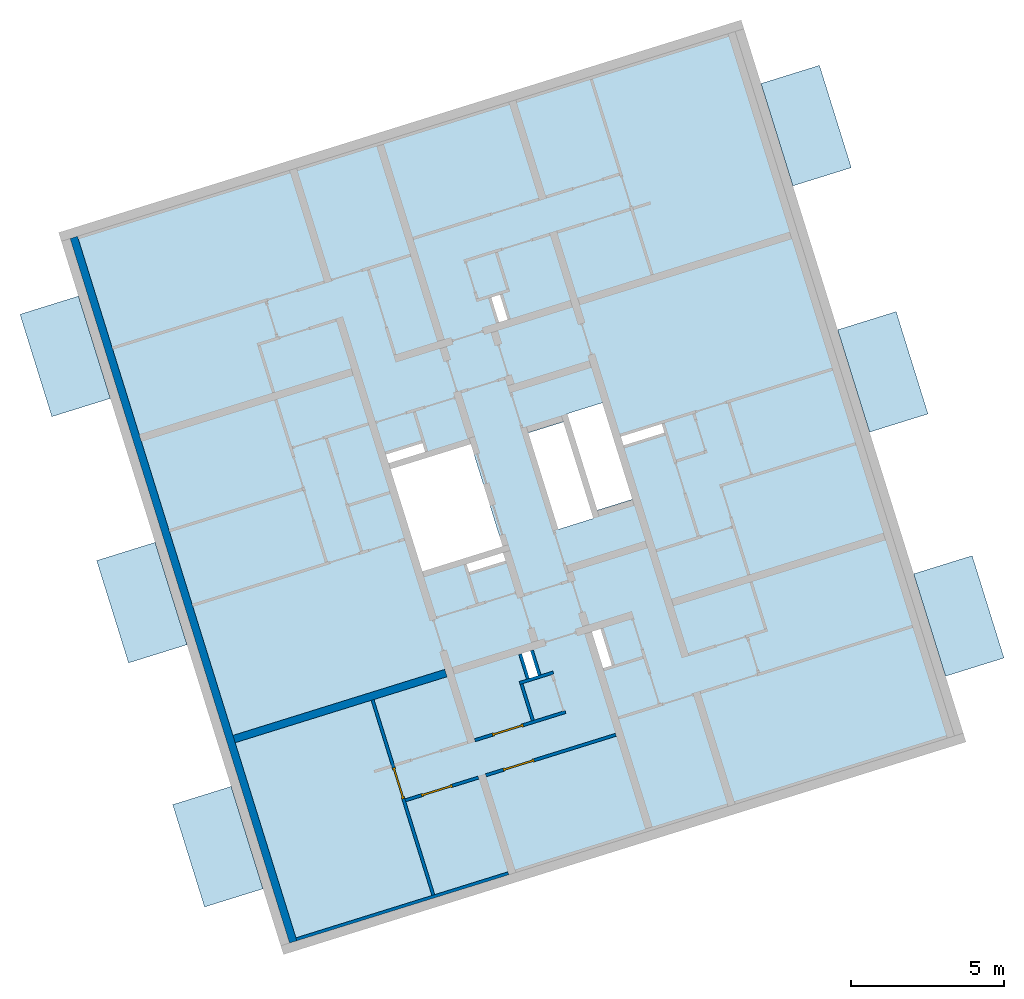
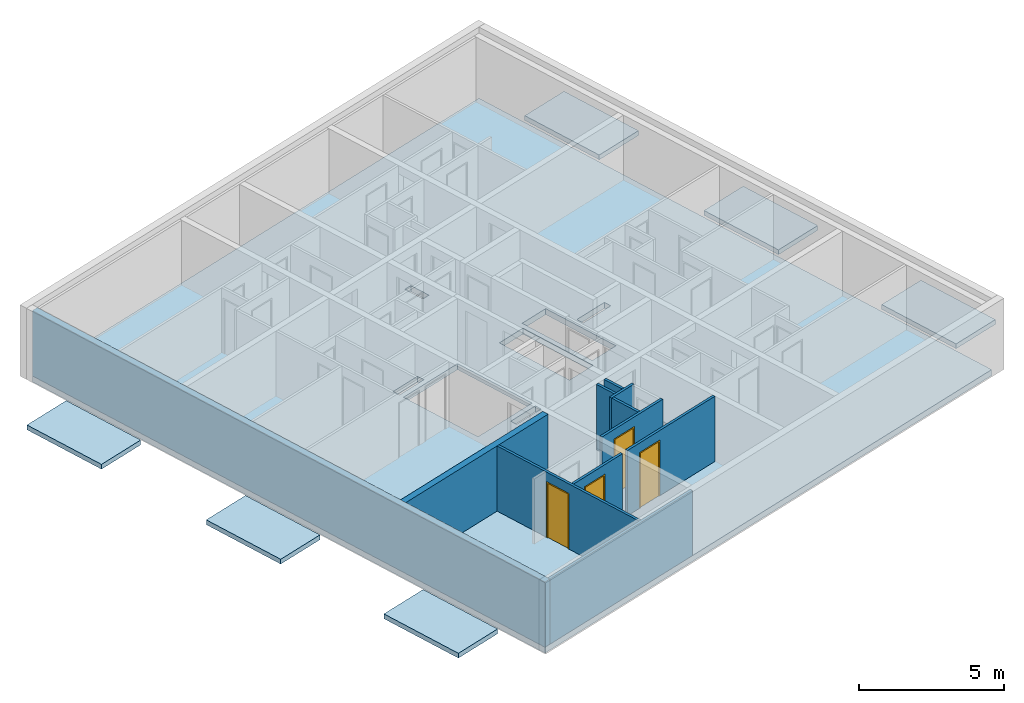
# One storey, part 1 of 9: 11 walls, 7 slabs, 4 doors, 13 openings.
"""IFC4 building model written with IfcOpenShell, lengths in metres."""

from ifc_helpers import new_model, entity, si_unit, converted_unit, direction, frame, origin, place, context, subcontext, project, spatial, indexed_curve, outline, extrude, polygons, source, transform, mapped, material, constituent, constituent_set, type_object, type_shapes, element, fill, save


model = new_model("IFC4")

# Units and contexts
model_context = context("Model", 3, precision=1e-05, world=origin(), true_north=direction((6.12323399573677e-17, 1.0)))
body_context = subcontext(model_context, "Body", "Model", "MODEL_VIEW")
ifc_project = project(units=[si_unit("LENGTHUNIT", "METRE"), si_unit("AREAUNIT", "SQUARE_METRE"), si_unit("VOLUMEUNIT", "CUBIC_METRE"), converted_unit("PLANEANGLEUNIT", "DEGREE", entity("IfcPlaneAngleMeasure", 0.0174532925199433), si_unit("PLANEANGLEUNIT", "RADIAN"), dimensions=[0, 0, 0, 0, 0, 0, 0])], contexts=[model_context])

# Site, building, storey
site_placement = place(None, frame((13.1347999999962, 11.9886000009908, 0.0), z_axis=(0.0, 0.0, 1.0), x_axis=(0.954770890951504, 0.297342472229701, 0.0)))
site = spatial("IfcSite", under=ifc_project, at=site_placement, Name="Schiehaven", CompositionType="ELEMENT")
building_placement = place(site_placement, origin())
building = spatial("IfcBuilding", under=site, at=building_placement, Name="VORM huis", CompositionType="ELEMENT")
storey_placement = place(building_placement, frame((0.0, 0.0, 24.9)))
storey = spatial("IfcBuildingStorey", under=building, at=storey_placement, Name="08 achtste verdieping", CompositionType="ELEMENT", Elevation=24.9)

# Slab, openings
ifc_material_1 = material(Name="beton_gewapend_ihw", Category="Miscellaneous")
slab_type_1 = type_object("IfcSlabType", Name="Floor:28_FL_skelet_vloer 250mm", PredefinedType="FLOOR", material=ifc_material_1)
slab_1_placement = place(storey_placement, origin())
slab_1 = element("IfcSlab", 1, at=slab_1_placement, inside=storey, type_object=slab_type_1, material=ifc_material_1, Name="Constructieve vloer", ObjectType="Vloer", PredefinedType="FLOOR", context=body_context, shape_type="SweptSolid", body=[
    extrude(outline(indexed_curve([(-12.05, -11.375), (12.05, -11.375), (12.05, 11.375), (-12.05, 11.375), (-12.05, -11.375)], self_intersect=False), holes=[indexed_curve([(-1.75, -3.62500000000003), (-1.75000000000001, -0.875000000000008), (1.74999999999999, -0.875000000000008), (1.74999999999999, -3.62500000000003), (-1.75, -3.62500000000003)], self_intersect=False), indexed_curve([(1.76, 2.22499999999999), (1.76, 1.02499999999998), (-1.54, 1.02499999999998), (-1.54, 2.22499999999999), (1.76, 2.22499999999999)], self_intersect=False), indexed_curve([(-1.75999999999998, 3.62499999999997), (1.54, 3.62499999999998), (1.54, 2.42499999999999), (-1.75999999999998, 2.42499999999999), (-1.75999999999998, 3.62499999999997)], self_intersect=False), indexed_curve([(5.27499999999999, -1.02499999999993), (6.125, -1.02499999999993), (6.12500000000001, -1.32499999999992), (5.275, -1.32499999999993), (5.27499999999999, -1.02499999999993)], self_intersect=False), indexed_curve([(5.27500000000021, 1.37500000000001), (6.52500000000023, 1.37500000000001), (6.52500000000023, 1.07500000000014), (5.27500000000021, 1.07500000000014), (5.27500000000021, 1.37500000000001)], self_intersect=False), indexed_curve([(-0.524999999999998, 5.27500000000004), (-0.224999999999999, 5.27500000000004), (-0.224999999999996, 3.87283572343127), (-0.524999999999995, 3.87283572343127), (-0.524999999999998, 5.27500000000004)], self_intersect=False), indexed_curve([(-6.12500000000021, 1.48400000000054), (-5.2750000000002, 1.48400000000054), (-5.2750000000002, 1.18400000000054), (-6.12500000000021, 1.18400000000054), (-6.12500000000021, 1.48400000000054)], self_intersect=False), indexed_curve([(1.94999999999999, -0.924999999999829), (2.22500000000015, -0.924999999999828), (2.22500000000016, -2.17499999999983), (1.94999999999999, -2.17499999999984), (1.94999999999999, -0.924999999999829)], self_intersect=False), indexed_curve([(-2.25000000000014, -2.37499999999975), (-1.95000000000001, -2.37499999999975), (-1.95, -3.62499999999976), (-2.25000000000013, -3.62499999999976), (-2.25000000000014, -2.37499999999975)], self_intersect=False)]), frame((16.2500000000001, 17.05, -0.249999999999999), z_axis=(0.0, 0.0, 1.0), x_axis=(0.0, -1.0, 0.0)), (0.0, 0.0, 1.0), 0.249999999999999),
])
opening_1_placement = place(slab_1_placement, origin())
element("IfcOpeningElement", 2, at=opening_1_placement, cuts=slab_1, Name="Constructieve vloer", PredefinedType="OPENING", context=body_context, shape_type="SweptSolid", body=[
    extrude(outline(indexed_curve([(-1.74999999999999, -1.37500000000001), (1.75, -1.37500000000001), (1.75, 1.37500000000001), (-1.75, 1.37500000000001), (-1.74999999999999, -1.37500000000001)], self_intersect=False)), frame((14.0, 17.05, -0.249999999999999), z_axis=(0.0, 0.0, 1.0), x_axis=(0.0, -1.0, 0.0)), (0.0, 0.0, 1.0), 0.249999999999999),
])
opening_2_placement = place(slab_1_placement, origin())
element("IfcOpeningElement", 3, at=opening_2_placement, cuts=slab_1, Name="Constructieve vloer", PredefinedType="OPENING", context=body_context, shape_type="SweptSolid", body=[
    extrude(outline(indexed_curve([(-1.65, -0.600000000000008), (1.65, -0.600000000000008), (1.65, 0.600000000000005), (-1.65, 0.600000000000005), (-1.65, -0.600000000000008)], self_intersect=False)), frame((17.8750000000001, 16.94, -0.249999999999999), z_axis=(0.0, 0.0, 1.0), x_axis=(0.0, 1.0, 0.0)), (0.0, 0.0, 1.0), 0.249999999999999),
])
opening_3_placement = place(slab_1_placement, origin())
element("IfcOpeningElement", 4, at=opening_3_placement, cuts=slab_1, Name="Constructieve vloer", PredefinedType="OPENING", context=body_context, shape_type="SweptSolid", body=[
    extrude(outline(indexed_curve([(-0.150000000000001, -0.425000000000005), (0.149999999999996, -0.425000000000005), (0.149999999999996, 0.425000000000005), (-0.150000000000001, 0.425000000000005), (-0.150000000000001, -0.425000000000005)], self_intersect=False)), frame((15.0750000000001, 11.35, -0.249999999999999), z_axis=(0.0, 0.0, 1.0), x_axis=(-1.0, 0.0, 0.0)), (0.0, 0.0, 1.0), 0.249999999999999),
])
opening_4_placement = place(slab_1_placement, origin())
element("IfcOpeningElement", 5, at=opening_4_placement, cuts=slab_1, Name="Constructieve vloer", PredefinedType="OPENING", context=body_context, shape_type="SweptSolid", body=[
    extrude(outline(indexed_curve([(-0.149999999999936, -0.625000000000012), (0.149999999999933, -0.625000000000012), (0.149999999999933, 0.625000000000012), (-0.149999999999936, 0.625000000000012), (-0.149999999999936, -0.625000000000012)], self_intersect=False)), frame((17.4750000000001, 11.1499999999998, -0.249999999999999), z_axis=(0.0, 0.0, 1.0), x_axis=(-1.0, 0.0, 0.0)), (0.0, 0.0, 1.0), 0.249999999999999),
])
opening_5_placement = place(slab_1_placement, origin())
element("IfcOpeningElement", 6, at=opening_5_placement, cuts=slab_1, Name="Constructieve vloer", PredefinedType="OPENING", context=body_context, shape_type="SweptSolid", body=[
    extrude(outline(indexed_curve([(-0.701082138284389, -0.149999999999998), (0.701082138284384, -0.149999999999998), (0.701082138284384, 0.150000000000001), (-0.701082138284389, 0.150000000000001), (-0.701082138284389, -0.149999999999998)], self_intersect=False)), frame((20.8239178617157, 17.425, -0.249999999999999), z_axis=(0.0, 0.0, 1.0), x_axis=(-1.0, 0.0, 0.0)), (0.0, 0.0, 1.0), 0.249999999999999),
])
opening_6_placement = place(slab_1_placement, origin())
element("IfcOpeningElement", 7, at=opening_6_placement, cuts=slab_1, Name="Constructieve vloer", PredefinedType="OPENING", context=body_context, shape_type="SweptSolid", body=[
    extrude(outline(indexed_curve([(-0.149999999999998, -0.425000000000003), (0.149999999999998, -0.425000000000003), (0.149999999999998, 0.425000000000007), (-0.149999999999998, 0.425000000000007), (-0.149999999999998, -0.425000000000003)], self_intersect=False)), frame((17.5840000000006, 22.7500000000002, -0.249999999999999), z_axis=(0.0, 0.0, 1.0), x_axis=(-1.0, 0.0, 0.0)), (0.0, 0.0, 1.0), 0.249999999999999),
])
opening_7_placement = place(slab_1_placement, origin())
element("IfcOpeningElement", 8, at=opening_7_placement, cuts=slab_1, Name="Constructieve vloer", PredefinedType="OPENING", context=body_context, shape_type="SweptSolid", body=[
    extrude(outline(indexed_curve([(-0.625000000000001, -0.137500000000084), (0.625000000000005, -0.137500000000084), (0.625000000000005, 0.137500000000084), (-0.625000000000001, 0.137500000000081), (-0.625000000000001, -0.137500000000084)], self_intersect=False)), frame((14.7000000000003, 14.9624999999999, -0.249999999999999), z_axis=(0.0, 0.0, 1.0), x_axis=(-1.0, 0.0, 0.0)), (0.0, 0.0, 1.0), 0.249999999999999),
])
opening_8_placement = place(slab_1_placement, origin())
element("IfcOpeningElement", 9, at=opening_8_placement, cuts=slab_1, Name="Constructieve vloer", PredefinedType="OPENING", context=body_context, shape_type="SweptSolid", body=[
    extrude(outline(indexed_curve([(-0.625000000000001, -0.150000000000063), (0.625000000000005, -0.150000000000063), (0.625000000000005, 0.150000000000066), (-0.625000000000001, 0.150000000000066), (-0.625000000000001, -0.150000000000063)], self_intersect=False)), frame((13.2500000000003, 19.1500000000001, -0.249999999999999), z_axis=(0.0, 0.0, 1.0), x_axis=(-1.0, 0.0, 0.0)), (0.0, 0.0, 1.0), 0.249999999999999),
])

# Slabs
ifc_material_2 = material(Name="beton_gewapend_prefab-element", Category="Miscellaneous")
slab_type_2 = type_object("IfcSlabType", Name="Floor:23_FL_skelet_balkon 200mm", PredefinedType="FLOOR", material=ifc_material_2)
slab_2_placement = place(storey_placement, origin())
element("IfcSlab", 10, at=slab_2_placement, inside=storey, type_object=slab_type_2, material=ifc_material_2, Name="Balkonvloer", ObjectType="Vloer", PredefinedType="FLOOR", context=body_context, shape_type="SweptSolid", body=[
    extrude(outline(indexed_curve([(-1.75000000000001, -1.0), (1.75000000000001, -1.0), (1.75000000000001, 0.999999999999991), (-1.75000000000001, 0.999999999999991), (-1.75000000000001, -1.0)], self_intersect=False)), frame((28.925, 25.475, 0.0), z_axis=(0.0, 0.0, -1.0), x_axis=(0.0, 1.0, 0.0)), (0.0, 0.0, 1.0), 0.199999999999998),
])
slab_3_placement = place(storey_placement, origin())
element("IfcSlab", 11, at=slab_3_placement, inside=storey, type_object=slab_type_2, material=ifc_material_2, Name="Balkonvloer", ObjectType="Vloer", PredefinedType="FLOOR", context=body_context, shape_type="SweptSolid", body=[
    extrude(outline(indexed_curve([(-1.74999999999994, -0.999999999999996), (1.75000000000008, -0.999999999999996), (1.74999999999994, 0.999999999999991), (-1.75000000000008, 0.999999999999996), (-1.74999999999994, -0.999999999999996)], self_intersect=False)), frame((28.9250000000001, 8.70000000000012, 0.0), z_axis=(0.0, 0.0, -1.0), x_axis=(0.0, 1.0, 0.0)), (0.0, 0.0, 1.0), 0.199999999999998),
])
slab_4_placement = place(storey_placement, origin())
element("IfcSlab", 12, at=slab_4_placement, inside=storey, type_object=slab_type_2, material=ifc_material_2, Name="Balkonvloer", ObjectType="Vloer", PredefinedType="FLOOR", context=body_context, shape_type="SweptSolid", body=[
    extrude(outline(indexed_curve([(-1.74999999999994, -0.999999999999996), (1.75000000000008, -0.999999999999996), (1.74999999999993, 0.999999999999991), (-1.75000000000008, 0.999999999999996), (-1.74999999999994, -0.999999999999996)], self_intersect=False)), frame((28.9250000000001, 17.05, 0.0), z_axis=(0.0, 0.0, -1.0), x_axis=(0.0, 1.0, 0.0)), (0.0, 0.0, 1.0), 0.199999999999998),
])
slab_5_placement = place(storey_placement, origin())
element("IfcSlab", 13, at=slab_5_placement, inside=storey, type_object=slab_type_2, material=ifc_material_2, Name="Balkonvloer", ObjectType="Vloer", PredefinedType="FLOOR", context=body_context, shape_type="SweptSolid", body=[
    extrude(outline(indexed_curve([(-1.74999999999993, -0.999999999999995), (1.75000000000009, -0.999999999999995), (1.74999999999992, 0.999999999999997), (-1.75000000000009, 0.999999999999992), (-1.74999999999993, -0.999999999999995)], self_intersect=False)), frame((3.5750000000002, 25.4750000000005, 0.0), z_axis=(0.0, 0.0, -1.0), x_axis=(0.0, 1.0, 0.0)), (0.0, 0.0, 1.0), 0.199999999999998),
])
slab_6_placement = place(storey_placement, origin())
element("IfcSlab", 14, at=slab_6_placement, inside=storey, type_object=slab_type_2, material=ifc_material_2, Name="Balkonvloer", ObjectType="Vloer", PredefinedType="FLOOR", context=body_context, shape_type="SweptSolid", body=[
    extrude(outline(indexed_curve([(-1.75000000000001, -0.999999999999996), (1.75000000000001, -0.999999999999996), (1.75000000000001, 0.999999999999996), (-1.75000000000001, 0.999999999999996), (-1.75000000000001, -0.999999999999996)], self_intersect=False)), frame((3.57500000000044, 8.69999999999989, 0.0), z_axis=(0.0, 0.0, -1.0), x_axis=(0.0, 1.0, 0.0)), (0.0, 0.0, 1.0), 0.199999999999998),
])
slab_7_placement = place(storey_placement, origin())
element("IfcSlab", 15, at=slab_7_placement, inside=storey, type_object=slab_type_2, material=ifc_material_2, Name="Balkonvloer", ObjectType="Vloer", PredefinedType="FLOOR", context=body_context, shape_type="SweptSolid", body=[
    extrude(outline(indexed_curve([(-1.75000000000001, -0.999999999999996), (1.75000000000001, -0.999999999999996), (1.75000000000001, 0.999999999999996), (-1.75000000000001, 0.999999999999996), (-1.75000000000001, -0.999999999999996)], self_intersect=False)), frame((3.5750000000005, 17.0499999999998, 0.0), z_axis=(0.0, 0.0, -1.0), x_axis=(0.0, 1.0, 0.0)), (0.0, 0.0, 1.0), 0.199999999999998),
])

# Walls
wall_type_1 = type_object("IfcWallType", Name="Basic Wall:28_WA_skelet_wand 250mm_gen", PredefinedType="STANDARD")
wall_1_placement = place(storey_placement, frame((5.0, 5.0, 0.0), z_axis=(0.0, 0.0, 1.0), x_axis=(0.0, 1.0, 0.0)))
element("IfcWall", 16, at=wall_1_placement, inside=storey, type_object=wall_type_1, material=ifc_material_1, Name="Constructieve wand", ObjectType="Wand", PredefinedType="NOTDEFINED", context=body_context, shape_type="SweptSolid", body=[
    extrude(outline(indexed_curve([(24.1, 0.125), (4.21737840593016e-16, 0.125), (-4.21737840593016e-16, -0.125), (24.1, -0.125), (24.1, 0.125)], self_intersect=False)), origin(), (0.0, 0.0, 1.0), 2.75),
])
ifc_material_3 = material(Name="ntb_ntb_ntb", Category="Miscellaneous")
wall_type_2 = type_object("IfcWallType", Name="Basic Wall:21_WA_gevel_binnenspouwwand 100mm_gen", PredefinedType="STANDARD")
wall_2_placement = place(storey_placement, frame((5.12500000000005, 5.05000000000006, 0.0)))
element("IfcWall", 17, at=wall_2_placement, inside=storey, type_object=wall_type_2, material=ifc_material_3, Name="Binnenspouwblad", ObjectType="Wand", PredefinedType="NOTDEFINED", context=body_context, shape_type="SweptSolid", body=[
    extrude(outline(indexed_curve([(7.24999999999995, 0.0499999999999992), (-1.84844170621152e-16, 0.0499999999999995), (1.84844170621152e-16, -0.0499999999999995), (7.24999999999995, -0.0499999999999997), (7.24999999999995, 0.0499999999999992)], self_intersect=False)), origin(), (0.0, 0.0, 1.0), 2.75),
])
wall_type_3 = type_object("IfcWallType", Name="Basic Wall:22_WA_afbouw_binnenwand 250mm_gen", PredefinedType="STANDARD")
wall_3_placement = place(storey_placement, frame((12.3750000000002, 11.8999999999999, 0.0), z_axis=(0.0, 0.0, 1.0), x_axis=(-1.0, 0.0, 0.0)))
element("IfcWall", 18, at=wall_3_placement, inside=storey, type_object=wall_type_3, material=ifc_material_3, Name="Binnenwand", ObjectType="Wand", PredefinedType="NOTDEFINED", context=body_context, shape_type="SweptSolid", body=[
    extrude(outline(indexed_curve([(7.24999999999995, 0.124999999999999), (3.52198535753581e-16, 0.125), (-3.52198535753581e-16, -0.125), (7.24999999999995, -0.125000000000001), (7.24999999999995, 0.124999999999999)], self_intersect=False)), origin(), (0.0, 0.0, 1.0), 2.75),
])

# Wall, opening, door
wall_type_4 = type_object("IfcWallType", Name="Basic Wall:22_WA_afbouw_binnenwand 100mm_gen", PredefinedType="STANDARD")
wall_4_placement = place(storey_placement, frame((12.6250000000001, 8.32499999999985, 0.0)))
wall_4 = element("IfcWall", 19, at=wall_4_placement, inside=storey, type_object=wall_type_4, material=ifc_material_3, Name="Binnenwand", ObjectType="Wand", PredefinedType="NOTDEFINED", context=body_context, shape_type="Tessellation", body=[
    polygons([(8.64956216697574e-16, -0.0500000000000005, 0.0), (0.600000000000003, -0.0500000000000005, 0.0), (0.600000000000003, -0.0500000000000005, 2.34999999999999), (1.65, -0.0500000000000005, 2.34999999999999), (1.65, -0.0500000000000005, 0.0), (4.45000000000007, -0.0500000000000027, 0.0), (4.45000000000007, -0.0500000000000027, 2.75), (8.64956216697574e-16, -0.0500000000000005, 2.75), (0.600000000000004, 0.0499999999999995, 2.34999999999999), (0.600000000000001, 0.0499999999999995, 0.0), (1.41847817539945e-15, 0.0499999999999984, 0.0), (1.41847817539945e-15, 0.0499999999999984, 2.75), (4.45000000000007, 0.0499999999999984, 2.75), (4.45000000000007, 0.0499999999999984, 0.0), (1.65, 0.0499999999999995, 0.0), (1.65000000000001, 0.0499999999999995, 2.34999999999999)], [[[1, 2, 3, 4, 5, 6, 7, 8]], [[9, 10, 11, 12, 13, 14, 15, 16]], [[11, 10, 2, 1]], [[7, 6, 14, 13]], [[8, 7, 13, 12]], [[1, 8, 12, 11]], [[5, 4, 16, 15]], [[3, 2, 10, 9]], [[4, 3, 9, 16]], [[15, 14, 6, 5]]], closed=True),
])
opening_9_placement = place(wall_4_placement, frame((0.600000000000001, -0.0500000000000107, 0.0)))
opening_9 = element("IfcOpeningElement", 20, at=opening_9_placement, cuts=wall_4, Name="Binnendeur", PredefinedType="OPENING", context=body_context, shape_type="SweptSolid", body=[
    extrude(outline(indexed_curve([(2.34999999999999, 1.05), (0.0, 1.05), (0.0, 1.35358391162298e-15), (2.34999999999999, 1.35358391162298e-15), (2.34999999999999, 1.05)], self_intersect=False)), frame((0.0, 0.0, 0.0), z_axis=(0.0, 1.0, 0.0), x_axis=(0.0, 0.0, 1.0)), (0.0, 0.0, 1.0), 0.1),
])
ifc_material_4 = material(Name="PD_a_binnenwandopeningen", Category="Miscellaneous")
ifc_constituent_1 = constituent(ifc_material_4, Name="PD_a_binnenwandopeningen", Category="Miscellaneous")
ifc_material_5 = material(Name="metaal_aluminium_ntb", Category="Miscellaneous")
ifc_constituent_2 = constituent(ifc_material_5, Name="metaal_aluminium_ntb", Category="Miscellaneous")
ifc_constituent_set_1 = constituent_set(constituents=[ifc_constituent_1, ifc_constituent_2])
door_type = type_object("IfcDoorType", Name="32_DO_binnendeur enkel:binnendeur", OperationType="REVOLVING", PredefinedType="DOOR")
shared_shape_1 = source(origin(), body_context, "Body", "SweptSolid", [
    extrude(outline(indexed_curve([(-1.16249999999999, -0.525000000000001), (1.18749999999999, -0.525), (1.18749999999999, 0.525), (-1.16249999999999, 0.525), (-1.16249999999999, 0.475), (1.13749999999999, 0.475), (1.13749999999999, -0.475), (-1.16249999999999, -0.475), (-1.16249999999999, -0.525000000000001)], self_intersect=False)), frame((0.525000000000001, 0.0, 1.16249999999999), z_axis=(0.0, 1.0, 0.0), x_axis=(0.0, 0.0, 1.0)), (0.0, 0.0, 1.0), 0.1),
    extrude(outline(indexed_curve([(-0.025, -0.475), (0.025, -0.475), (0.025, 0.475), (-0.025, 0.475), (-0.025, -0.475)], self_intersect=False)), frame((0.525000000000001, 0.0499999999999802, 0.0), z_axis=(0.0, 0.0, 1.0), x_axis=(0.0, 1.0, 0.0)), (0.0, 0.0, 1.0), 2.29999999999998),
])
type_shapes(door_type, [shared_shape_1])
door_1_placement = place(opening_9_placement, origin())
door_1 = element("IfcDoor", 21, at=door_1_placement, inside=storey, type_object=door_type, material=ifc_constituent_set_1, Name="Binnendeur", ObjectType="Deur", OperationType="REVOLVING", OverallHeight=2.34999999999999, OverallWidth=1.05, PredefinedType="DOOR", context=body_context, shape_type="MappedRepresentation", body=[
    mapped(shared_shape_1, transform((0.0, 0.0, 0.0), scale=1.0)),
])
fill(opening_9, door_1)

# Wall, openings, door
wall_5_placement = place(storey_placement, frame((12.6250000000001, 9.52499999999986, 0.0)))
wall_5 = element("IfcWall", 22, at=wall_5_placement, inside=storey, type_object=wall_type_4, material=ifc_material_3, Name="Binnenwand", ObjectType="Wand", PredefinedType="NOTDEFINED", context=body_context, shape_type="Tessellation", body=[
    polygons([(1.65, -0.0500000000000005, 2.34999999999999), (1.65, -0.0500000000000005, 0.0), (3.10000000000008, -0.0500000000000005, 0.0), (3.10000000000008, -0.0500000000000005, 2.75), (1.0100169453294e-15, -0.0500000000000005, 2.75), (1.0100169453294e-15, -0.0500000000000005, 0.0), (0.600000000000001, -0.0500000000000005, 0.0), (0.600000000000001, -0.0500000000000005, 2.34999999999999), (3.10000000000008, 0.0499999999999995, 0.0), (2.05000000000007, 0.0499999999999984, 0.0), (1.95000000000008, 0.0499999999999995, 0.0), (1.65, 0.0499999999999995, 0.0), (1.65, 0.0499999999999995, 2.34999999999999), (0.599999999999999, 0.0499999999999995, 2.34999999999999), (0.600000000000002, 0.0499999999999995, 0.0), (1.56353890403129e-15, 0.0499999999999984, 0.0), (1.56353890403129e-15, 0.0499999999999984, 2.75), (1.95000000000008, 0.0499999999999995, 2.75), (2.05000000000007, 0.0499999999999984, 2.75), (3.00000000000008, 0.0499999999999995, 2.75), (3.10000000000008, 0.0499999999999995, 2.75), (3.10000000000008, 0.0499999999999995, 2.34999999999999)], [[[1, 2, 3, 4, 5, 6, 7, 8]], [[9, 10, 11, 12, 13, 14, 15, 16, 17, 18, 19, 20, 21, 22]], [[7, 6, 16, 15]], [[5, 4, 21, 20, 19, 18, 17]], [[6, 5, 17, 16]], [[15, 14, 8, 7]], [[13, 12, 2, 1]], [[14, 13, 1, 8]], [[4, 3, 9, 22, 21]], [[3, 2, 12, 11, 10, 9]]], closed=True),
])
opening_10_placement = place(wall_5_placement, origin())
element("IfcOpeningElement", 23, at=opening_10_placement, cuts=wall_5, Name="Binnendeur", PredefinedType="OPENING", context=body_context, shape_type="SweptSolid", body=[
    extrude(outline(indexed_curve([(-0.0499999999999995, -1.17499999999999), (0.0499999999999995, -1.17499999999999), (0.0499999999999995, 1.17499999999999), (-0.0499999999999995, 1.17499999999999), (-0.0499999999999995, -1.17499999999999)], self_intersect=False)), frame((3.05000000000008, 0.0499999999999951, 1.17499999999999), z_axis=(0.0, 1.0, 0.0), x_axis=(-1.0, 0.0, 0.0)), (0.0, 0.0, 1.0), 1.05),
])
opening_11_placement = place(wall_5_placement, frame((1.65, 0.0499999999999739, 0.0)))
opening_11 = element("IfcOpeningElement", 24, at=opening_11_placement, cuts=wall_5, Name="Binnendeur", PredefinedType="OPENING", context=body_context, shape_type="SweptSolid", body=[
    extrude(outline(indexed_curve([(2.34999999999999, 1.05), (0.0, 1.05), (0.0, 1.35358391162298e-15), (2.34999999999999, 1.35358391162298e-15), (2.34999999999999, 1.05)], self_intersect=False)), frame((0.0, 0.0, 0.0), z_axis=(0.0, -1.0, 0.0), x_axis=(0.0, 0.0, 1.0)), (0.0, 0.0, 1.0), 0.1),
])
ifc_constituent_3 = constituent(ifc_material_4, Name="PD_a_binnenwandopeningen", Category="Miscellaneous")
ifc_constituent_4 = constituent(ifc_material_5, Name="metaal_aluminium_ntb", Category="Miscellaneous")
ifc_constituent_set_2 = constituent_set(constituents=[ifc_constituent_3, ifc_constituent_4])
door_2_placement = place(opening_11_placement, frame((0.0, 0.0, 0.0), z_axis=(0.0, 0.0, 1.0), x_axis=(-1.0, 0.0, 0.0)))
door_2 = element("IfcDoor", 25, at=door_2_placement, inside=storey, type_object=door_type, material=ifc_constituent_set_2, Name="Binnendeur", ObjectType="Deur", OperationType="REVOLVING", OverallHeight=2.34999999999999, OverallWidth=1.05, PredefinedType="DOOR", context=body_context, shape_type="MappedRepresentation", body=[
    mapped(shared_shape_1, transform((0.0, 0.0, 0.0), scale=1.0)),
])
fill(opening_11, door_2)

# Walls
wall_6_placement = place(storey_placement, frame((14.5750000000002, 10.8749999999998, 0.0)))
element("IfcWall", 26, at=wall_6_placement, inside=storey, type_object=wall_type_4, material=ifc_material_3, Name="Binnenwand", ObjectType="Wand", PredefinedType="NOTDEFINED", context=body_context, shape_type="SweptSolid", body=[
    extrude(outline(indexed_curve([(1.15, 0.0499999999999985), (-8.06106149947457e-16, 0.0499999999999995), (8.06106149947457e-16, -0.0499999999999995), (1.15, -0.0500000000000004), (1.15, 0.0499999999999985)], self_intersect=False)), origin(), (0.0, 0.0, 1.0), 2.75),
])
wall_7_placement = place(storey_placement, frame((14.6250000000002, 10.8249999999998, 0.0), z_axis=(0.0, 0.0, 1.0), x_axis=(0.0, -1.0, 0.0)))
element("IfcWall", 27, at=wall_7_placement, inside=storey, type_object=wall_type_4, material=ifc_material_3, Name="Binnenwand", ObjectType="Wand", PredefinedType="NOTDEFINED", context=body_context, shape_type="SweptSolid", body=[
    extrude(outline(indexed_curve([(1.25, 0.0499999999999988), (-7.54991624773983e-16, 0.0499999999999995), (7.54991624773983e-16, -0.0499999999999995), (1.25, -0.0500000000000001), (1.25, 0.0499999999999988)], self_intersect=False)), origin(), (0.0, 0.0, 1.0), 2.75),
])
wall_8_placement = place(storey_placement, frame((15.2750000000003, 11.7749999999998, 0.0), z_axis=(0.0, 0.0, 1.0), x_axis=(0.0, -1.0, 0.0)))
element("IfcWall", 28, at=wall_8_placement, inside=storey, type_object=wall_type_4, material=ifc_material_3, Name="Binnenwand", ObjectType="Wand", PredefinedType="NOTDEFINED", context=body_context, shape_type="SweptSolid", body=[
    extrude(outline(indexed_curve([(0.850000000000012, 0.0499999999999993), (-7.54991624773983e-16, 0.0499999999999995), (7.54991624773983e-16, -0.0499999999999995), (0.850000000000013, -0.0499999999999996), (0.850000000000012, 0.0499999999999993)], self_intersect=False)), origin(), (0.0, 0.0, 1.0), 2.75),
])

# Wall, opening, door
wall_9_placement = place(storey_placement, frame((12.3750000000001, 8.32499999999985, 0.0), z_axis=(0.0, 0.0, 1.0), x_axis=(-1.0, 0.0, 0.0)))
wall_9 = element("IfcWall", 29, at=wall_9_placement, inside=storey, type_object=wall_type_4, material=ifc_material_3, Name="Binnenwand", ObjectType="Wand", PredefinedType="NOTDEFINED", context=body_context, shape_type="Tessellation", body=[
    polygons([(-6.61056801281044e-16, -0.0500000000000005, 0.0), (0.899999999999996, -0.0500000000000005, 0.0), (0.899999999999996, -0.0500000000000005, 2.34999999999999), (1.95, -0.0500000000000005, 2.34999999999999), (1.95, -0.0500000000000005, 0.0), (2.50000000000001, -0.0500000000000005, 0.0), (2.50000000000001, -0.0500000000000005, 2.75), (-6.61056801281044e-16, -0.0500000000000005, 2.75), (0.899999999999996, 0.0499999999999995, 2.34999999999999), (0.899999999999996, 0.0499999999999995, 0.0), (-5.30330896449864e-16, 0.0499999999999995, 0.0), (-5.30330896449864e-16, 0.0499999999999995, 2.75), (2.50000000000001, 0.0499999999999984, 2.75), (2.50000000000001, 0.0499999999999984, 0.0), (1.95, 0.0499999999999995, 0.0), (1.95, 0.0499999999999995, 2.34999999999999)], [[[1, 2, 3, 4, 5, 6, 7, 8]], [[9, 10, 11, 12, 13, 14, 15, 16]], [[11, 10, 2, 1]], [[8, 7, 13, 12]], [[1, 8, 12, 11]], [[5, 4, 16, 15]], [[3, 2, 10, 9]], [[4, 3, 9, 16]], [[7, 6, 14, 13]], [[15, 14, 6, 5]]], closed=True),
])
opening_12_placement = place(wall_9_placement, frame((1.95, 0.0499999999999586, 0.0)))
opening_12 = element("IfcOpeningElement", 30, at=opening_12_placement, cuts=wall_9, Name="Binnendeur", PredefinedType="OPENING", context=body_context, shape_type="SweptSolid", body=[
    extrude(outline(indexed_curve([(2.34999999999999, 1.35358391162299e-15), (2.34999999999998, 1.05), (0.0, 1.05), (2.16573425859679e-15, 1.35358391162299e-15), (2.34999999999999, 1.35358391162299e-15)], self_intersect=False)), frame((0.0, 0.0, 0.0), z_axis=(0.0, -1.0, 0.0), x_axis=(0.0, 0.0, 1.0)), (0.0, 0.0, 1.0), 0.1),
])
ifc_constituent_5 = constituent(ifc_material_4, Name="PD_a_binnenwandopeningen", Category="Miscellaneous")
ifc_constituent_6 = constituent(ifc_material_5, Name="metaal_aluminium_ntb", Category="Miscellaneous")
ifc_constituent_set_3 = constituent_set(constituents=[ifc_constituent_5, ifc_constituent_6])
shared_shape_2 = source(origin(), body_context, "Body", "SweptSolid", [
    extrude(outline(indexed_curve([(0.475, -1.16249999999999), (0.525, -1.16249999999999), (0.525, 1.18749999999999), (-0.525, 1.18749999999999), (-0.525, -1.16249999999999), (-0.475, -1.16249999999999), (-0.475, 1.13749999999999), (0.475, 1.13749999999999), (0.475, -1.16249999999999)], self_intersect=False)), frame((0.525000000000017, 0.100000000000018, 1.16249999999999), z_axis=(0.0, -1.0, 0.0), x_axis=(1.0, 0.0, 0.0)), (0.0, 0.0, 1.0), 0.1),
    extrude(outline(indexed_curve([(-0.475, -0.025), (0.475, -0.025), (0.475, 0.025), (-0.475, 0.025), (-0.475, -0.025)], self_intersect=False)), frame((0.525000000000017, 0.0499999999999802, 0.0)), (0.0, 0.0, 1.0), 2.29999999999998),
])
door_3_placement = place(opening_12_placement, frame((0.0, 0.0, 0.0), z_axis=(0.0, 0.0, 1.0), x_axis=(-1.0, 0.0, 0.0)))
door_3 = element("IfcDoor", 31, at=door_3_placement, inside=storey, type_object=door_type, material=ifc_constituent_set_3, Name="Binnendeur", ObjectType="Deur", OperationType="REVOLVING", OverallHeight=2.34999999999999, OverallWidth=1.05, PredefinedType="DOOR", context=body_context, shape_type="MappedRepresentation", body=[
    mapped(shared_shape_2, transform((0.0, 0.0, 0.0), scale=1.0)),
])
fill(opening_12, door_3)

wall_10_placement = place(storey_placement, frame((9.82500000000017, 11.7749999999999, 0.0), z_axis=(0.0, 0.0, 1.0), x_axis=(0.0, -1.0, 0.0)))
wall_10 = element("IfcWall", 32, at=wall_10_placement, inside=storey, type_object=wall_type_4, material=ifc_material_3, Name="Binnenwand", ObjectType="Wand", PredefinedType="NOTDEFINED", context=body_context, shape_type="Tessellation", body=[
    polygons([(2.16573425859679e-15, -0.0500000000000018, 0.0), (2.19999999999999, -0.0500000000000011, 0.0), (2.29999999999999, -0.0500000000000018, 0.0), (2.32500000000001, -0.0500000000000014, 0.0), (2.32500000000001, -0.0500000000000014, 2.34999999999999), (3.37500000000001, -0.0500000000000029, 2.34999999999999), (3.37500000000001, -0.0500000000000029, 0.0), (6.675, -0.0500000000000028, 0.0), (6.675, -0.0500000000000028, 2.75), (2.29999999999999, -0.0500000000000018, 2.75), (2.19999999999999, -0.0500000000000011, 2.75), (2.16573425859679e-15, -0.0500000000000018, 2.75), (2.32500000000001, 0.0499999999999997, 2.34999999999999), (2.32500000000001, 0.0499999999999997, 0.0), (2.29999999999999, 0.0499999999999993, 0.0), (2.19999999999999, 0.05, 0.0), (2.16573425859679e-15, 0.0499999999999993, 0.0), (2.16573425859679e-15, 0.0499999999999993, 2.75), (2.19999999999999, 0.05, 2.75), (2.29999999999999, 0.0499999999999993, 2.75), (3.4, 0.0499999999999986, 2.75), (3.5, 0.0500000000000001, 2.75), (6.67499999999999, 0.0499999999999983, 2.75), (6.67499999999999, 0.0499999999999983, 0.0), (3.5, 0.0500000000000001, 0.0), (3.4, 0.0499999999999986, 0.0), (3.37500000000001, 0.0499999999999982, 0.0), (3.37500000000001, 0.0499999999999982, 2.34999999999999)], [[[1, 2, 3, 4, 5, 6, 7, 8, 9, 10, 11, 12]], [[13, 14, 15, 16, 17, 18, 19, 20, 21, 22, 23, 24, 25, 26, 27, 28]], [[17, 16, 15, 14, 4, 3, 2, 1]], [[9, 8, 24, 23]], [[12, 11, 10, 9, 23, 22, 21, 20, 19, 18]], [[1, 12, 18, 17]], [[7, 6, 28, 27]], [[5, 4, 14, 13]], [[6, 5, 13, 28]], [[27, 26, 25, 24, 8, 7]]], closed=True),
])
opening_13_placement = place(wall_10_placement, frame((2.32500000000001, -0.0500000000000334, 0.0)))
opening_13 = element("IfcOpeningElement", 33, at=opening_13_placement, cuts=wall_10, Name="Binnendeur", PredefinedType="OPENING", context=body_context, shape_type="SweptSolid", body=[
    extrude(outline(indexed_curve([(2.34999999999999, 1.05), (0.0, 1.05), (0.0, 2.70716782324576e-16), (2.34999999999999, 2.70716782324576e-16), (2.34999999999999, 1.05)], self_intersect=False)), frame((0.0, 0.0, 0.0), z_axis=(0.0, 1.0, 0.0), x_axis=(0.0, 0.0, 1.0)), (0.0, 0.0, 1.0), 0.1),
])
ifc_constituent_7 = constituent(ifc_material_4, Name="PD_a_binnenwandopeningen", Category="Miscellaneous")
ifc_constituent_8 = constituent(ifc_material_5, Name="metaal_aluminium_ntb", Category="Miscellaneous")
ifc_constituent_set_4 = constituent_set(constituents=[ifc_constituent_7, ifc_constituent_8])
door_4_placement = place(opening_13_placement, origin())
door_4 = element("IfcDoor", 34, at=door_4_placement, inside=storey, type_object=door_type, material=ifc_constituent_set_4, Name="Binnendeur", ObjectType="Deur", OperationType="REVOLVING", OverallHeight=2.34999999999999, OverallWidth=1.05, PredefinedType="DOOR", context=body_context, shape_type="MappedRepresentation", body=[
    mapped(shared_shape_1, transform((0.0, 0.0, 0.0), scale=1.0)),
])
fill(opening_13, door_4)

# Wall
wall_11_placement = place(storey_placement, frame((14.8750000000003, 11.7749999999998, 0.0), z_axis=(0.0, 0.0, 1.0), x_axis=(0.0, -1.0, 0.0)))
element("IfcWall", 35, at=wall_11_placement, inside=storey, type_object=wall_type_4, material=ifc_material_3, Name="Binnenwand", ObjectType="Wand", PredefinedType="NOTDEFINED", context=body_context, shape_type="SweptSolid", body=[
    extrude(outline(indexed_curve([(0.850000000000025, 0.0499999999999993), (-7.54991624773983e-16, 0.0499999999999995), (7.54991624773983e-16, -0.0499999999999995), (0.850000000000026, -0.0499999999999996), (0.850000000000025, 0.0499999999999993)], self_intersect=False)), origin(), (0.0, 0.0, 1.0), 2.75),
])

save(model, "model.ifc")
